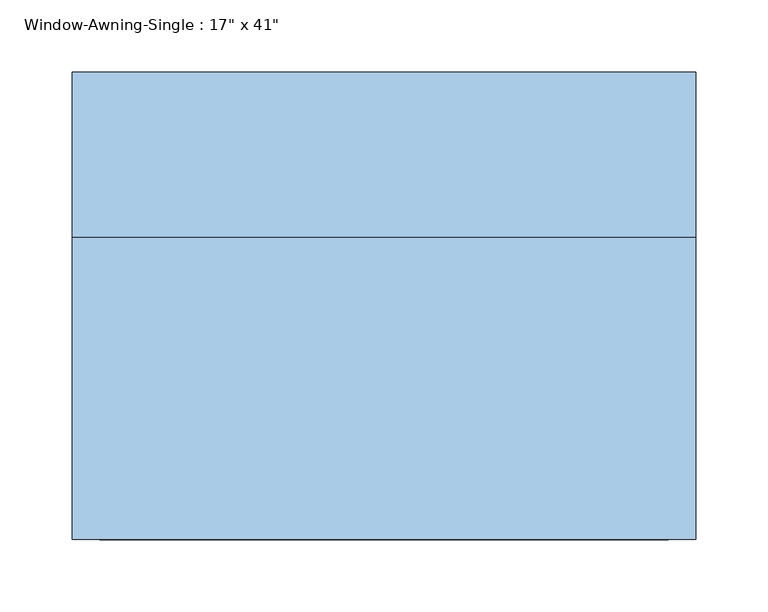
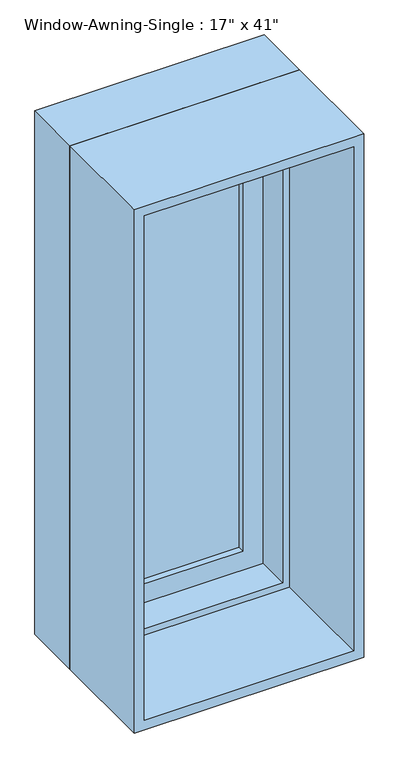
"""IFC4 building model written with IfcOpenShell, lengths in millimetres: window geometry."""

from ifc_helpers import new_model, si_unit, frame, origin, place, context, project, spatial, polyline, outline, extrude, faceted_brep, source, transform, mapped, element, save


def window_df283ff0(model_context):
    return source(origin(), model_context, "Body", "SolidModel", [
        faceted_brep([(203.2, 120.65, 927.1), (203.2, 171.45, 927.1), (-203.2, 171.45, 927.1), (-203.2, 120.65, 927.1), (184.15, 57.15, 946.15), (184.15, 120.65, 946.15), (-184.15, 120.65, 946.15), (-184.15, 57.15, 946.15), (215.9, 171.45, 914.4), (215.9, 57.15, 914.4), (-215.9, 57.15, 914.4), (-215.9, 171.45, 914.4), (-203.2, 171.45, 1943.1), (-203.2, 120.65, 1943.1), (-184.15, 120.65, 1924.05), (-184.15, 57.15, 1924.05), (-215.9, 57.15, 1955.8), (-215.9, 171.45, 1955.8), (203.2, 171.45, 1943.1), (203.2, 120.65, 1943.1), (184.15, 120.65, 1924.05), (184.15, 57.15, 1924.05), (215.9, 57.15, 1955.8), (215.9, 171.45, 1955.8)], [[[0, 1, 2, 3]], [[4, 5, 6, 7]], [[8, 9, 10, 11]], [[3, 2, 12, 13]], [[7, 6, 14, 15]], [[11, 10, 16, 17]], [[13, 12, 18, 19]], [[15, 14, 20, 21]], [[17, 16, 22, 23]], [[11, 17, 23, 8], [1, 18, 12, 2]], [[19, 18, 1, 0]], [[3, 13, 19, 0], [5, 20, 14, 6]], [[21, 20, 5, 4]], [[9, 22, 16, 10], [7, 15, 21, 4]], [[23, 22, 9, 8]]]),
        extrude(outline(polyline([(146.05, 152.4), (146.05, 146.05), (-146.05, 146.05), (-146.05, 152.4), (146.05, 152.4)])), frame((0.0, 0.0, 984.25), z_axis=(0.0, 0.0, 1.0), x_axis=(1.0, 0.0, 0.0)), (0.0, 0.0, 1.0), 901.7),
        extrude(outline(polyline([(146.05, 139.7), (146.05, 133.35), (-146.05, 133.35), (-146.05, 139.7), (146.05, 139.7)])), frame((0.0, 0.0, 984.25), z_axis=(0.0, 0.0, 1.0), x_axis=(1.0, 0.0, 0.0)), (0.0, 0.0, 1.0), 901.7),
        extrude(outline(polyline([(927.1, -203.2), (927.1, 203.2), (1943.1, 203.2), (1943.1, -203.2), (927.1, -203.2)]), holes=[polyline([(1885.95, -146.05), (1885.95, 146.05), (984.25, 146.05), (984.25, -146.05), (1885.95, -146.05)])]), frame((0.0, 120.65, 0.0), z_axis=(0.0, 1.0, 0.0), x_axis=(0.0, 0.0, 1.0)), (0.0, 0.0, 1.0), 44.45),
        extrude(outline(polyline([(1955.8, -215.9), (914.4, -215.9), (914.4, 215.9), (1955.8, 215.9), (1955.8, -215.9)]), holes=[polyline([(1936.75, -196.85), (1936.75, 196.85), (933.45, 196.85), (933.45, -196.85), (1936.75, -196.85)])]), frame((0.0, -152.4, 0.0), z_axis=(0.0, 1.0, 0.0), x_axis=(0.0, 0.0, 1.0)), (0.0, 0.0, 1.0), 209.55),
    ])


if __name__ == "__main__":
    model = new_model("IFC4")
    model_context = context("Model", 3, world=origin())
    ifc_project = project(units=[si_unit("LENGTHUNIT", "METRE", prefix="MILLI")], contexts=[model_context])
    site = spatial("IfcSite", under=ifc_project)
    building = spatial("IfcBuilding", under=site)
    placement = place(None, origin())
    window_shape = window_df283ff0(model_context)
    element("IfcWindow", 1, ObjectType="Window-Awning-Single : 17\" x 41\"", at=placement, inside=building, context=model_context, shape_type="MappedRepresentation", body=[
        mapped(window_shape, transform((0.0, 0.0, 0.0), x_axis=(1.0, 0.0, 0.0), y_axis=(0.0, 1.0, 0.0), z_axis=(0.0, 0.0, 1.0))),
    ])
    save(model, "model.ifc")
